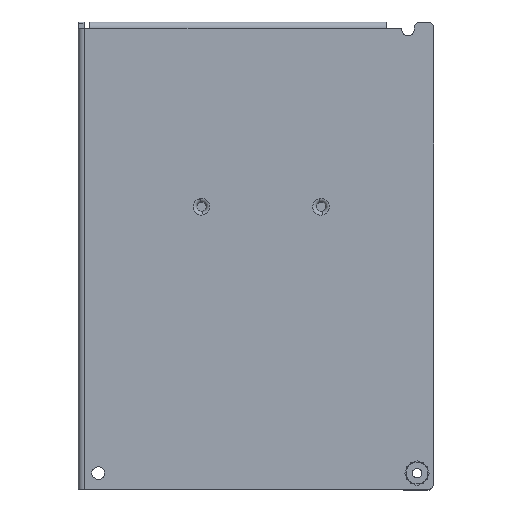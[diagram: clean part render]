
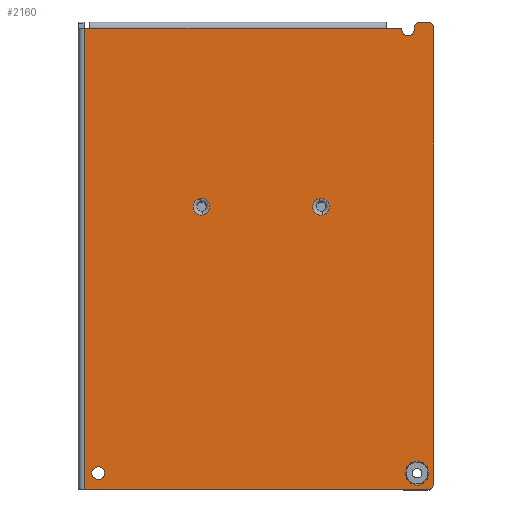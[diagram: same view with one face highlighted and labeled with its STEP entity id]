
A CAD part, front view. The second image highlights one B-rep face of the part: STEP entity #2160.
In plain terms, the highlighted planar face has unit normal (0, -1, 0).
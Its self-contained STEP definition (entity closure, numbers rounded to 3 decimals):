
#10=CARTESIAN_POINT('',(0.,0.,0.));
#20=DIRECTION('',(0.,1.,0.));
#30=DIRECTION('',(1.,0.,0.));
#40=AXIS2_PLACEMENT_3D('',#10,#20,#30);
#50=PLANE('',#40);
#60=CARTESIAN_POINT('',(-7.,0.,-2.));
#70=DIRECTION('',(0.,-1.,-0.));
#80=DIRECTION('',(-1.,0.,0.));
#90=AXIS2_PLACEMENT_3D('',#60,#70,#80);
#100=CIRCLE('',#90,1.75);
#110=CARTESIAN_POINT('',(-8.75,0.,-2.));
#120=VERTEX_POINT('',#110);
#130=CARTESIAN_POINT('',(-5.25,0.,-2.));
#140=VERTEX_POINT('',#130);
#150=EDGE_CURVE('',#120,#140,#100,.T.);
#160=ORIENTED_EDGE('',*,*,#150,.F.);
#170=CARTESIAN_POINT('',(-5.25,0.,-2.));
#180=DIRECTION('',(0.,0.,1.));
#190=VECTOR('',#180,1.);
#200=LINE('',#170,#190);
#210=CARTESIAN_POINT('',(-5.25,0.,-1.6));
#220=VERTEX_POINT('',#210);
#230=EDGE_CURVE('',#140,#220,#200,.T.);
#240=ORIENTED_EDGE('',*,*,#230,.F.);
#250=CARTESIAN_POINT('',(-3.65,0.,-1.6));
#260=DIRECTION('',(0.,1.,0.));
#270=DIRECTION('',(-1.,0.,0.));
#280=AXIS2_PLACEMENT_3D('',#250,#260,#270);
#290=CIRCLE('',#280,1.6);
#300=CARTESIAN_POINT('',(-3.65,0.,0.));
#310=VERTEX_POINT('',#300);
#320=EDGE_CURVE('',#220,#310,#290,.T.);
#330=ORIENTED_EDGE('',*,*,#320,.F.);
#340=CARTESIAN_POINT('',(-1.6,0.,0.));
#350=DIRECTION('',(-1.,0.,0.));
#360=VECTOR('',#350,1.);
#370=LINE('',#340,#360);
#380=CARTESIAN_POINT('',(-1.6,0.,0.));
#390=VERTEX_POINT('',#380);
#400=EDGE_CURVE('',#390,#310,#370,.T.);
#410=ORIENTED_EDGE('',*,*,#400,.T.);
#420=CARTESIAN_POINT('',(-1.6,0.,-1.6));
#430=DIRECTION('',(0.,1.,0.));
#440=DIRECTION('',(0.,0.,1.));
#450=AXIS2_PLACEMENT_3D('',#420,#430,#440);
#460=CIRCLE('',#450,1.6);
#470=CARTESIAN_POINT('',(0.,0.,-1.6));
#480=VERTEX_POINT('',#470);
#490=EDGE_CURVE('',#390,#480,#460,.T.);
#500=ORIENTED_EDGE('',*,*,#490,.F.);
#510=CARTESIAN_POINT('',(0.,0.,-127.4));
#520=DIRECTION('',(0.,0.,1.));
#530=VECTOR('',#520,1.);
#540=LINE('',#510,#530);
#550=CARTESIAN_POINT('',(0.,0.,-127.4));
#560=VERTEX_POINT('',#550);
#570=EDGE_CURVE('',#560,#480,#540,.T.);
#580=ORIENTED_EDGE('',*,*,#570,.T.);
#590=CARTESIAN_POINT('',(-1.6,0.,-127.4));
#600=DIRECTION('',(-0.,1.,0.));
#610=DIRECTION('',(1.,0.,0.));
#620=AXIS2_PLACEMENT_3D('',#590,#600,#610);
#630=CIRCLE('',#620,1.6);
#640=CARTESIAN_POINT('',(-1.6,0.,-129.));
#650=VERTEX_POINT('',#640);
#660=EDGE_CURVE('',#560,#650,#630,.T.);
#670=ORIENTED_EDGE('',*,*,#660,.F.);
#680=CARTESIAN_POINT('',(-96.3,0.,-129.));
#690=DIRECTION('',(1.,0.,0.));
#700=VECTOR('',#690,1.);
#710=LINE('',#680,#700);
#720=CARTESIAN_POINT('',(-96.3,0.,-129.));
#730=VERTEX_POINT('',#720);
#740=EDGE_CURVE('',#730,#650,#710,.T.);
#750=ORIENTED_EDGE('',*,*,#740,.T.);
#760=CARTESIAN_POINT('',(-96.3,0.,-1.7));
#770=DIRECTION('',(0.,0.,-1.));
#780=VECTOR('',#770,1.);
#790=LINE('',#760,#780);
#800=CARTESIAN_POINT('',(-96.3,0.,-1.7));
#810=VERTEX_POINT('',#800);
#820=EDGE_CURVE('',#810,#730,#790,.T.);
#830=ORIENTED_EDGE('',*,*,#820,.T.);
#840=CARTESIAN_POINT('',(-94.8,0.,-1.7));
#850=DIRECTION('',(-1.,0.,0.));
#860=VECTOR('',#850,1.);
#870=LINE('',#840,#860);
#880=CARTESIAN_POINT('',(-94.8,0.,-1.7));
#890=VERTEX_POINT('',#880);
#900=EDGE_CURVE('',#890,#810,#870,.T.);
#910=ORIENTED_EDGE('',*,*,#900,.T.);
#920=CARTESIAN_POINT('',(-13.,0.,-1.7));
#930=DIRECTION('',(-1.,0.,0.));
#940=VECTOR('',#930,1.);
#950=LINE('',#920,#940);
#960=CARTESIAN_POINT('',(-13.,0.,-1.7));
#970=VERTEX_POINT('',#960);
#980=EDGE_CURVE('',#970,#890,#950,.T.);
#990=ORIENTED_EDGE('',*,*,#980,.T.);
#1000=CARTESIAN_POINT('',(-9.05,0.,-1.7));
#1010=DIRECTION('',(-1.,0.,0.));
#1020=VECTOR('',#1010,1.);
#1030=LINE('',#1000,#1020);
#1040=CARTESIAN_POINT('',(-9.05,0.,-1.7));
#1050=VERTEX_POINT('',#1040);
#1060=EDGE_CURVE('',#1050,#970,#1030,.T.);
#1070=ORIENTED_EDGE('',*,*,#1060,.T.);
#1080=CARTESIAN_POINT('',(-9.05,0.,-2.));
#1090=DIRECTION('',(0.,1.,0.));
#1100=DIRECTION('',(0.,0.,1.));
#1110=AXIS2_PLACEMENT_3D('',#1080,#1090,#1100);
#1120=CIRCLE('',#1110,0.3);
#1130=EDGE_CURVE('',#1050,#120,#1120,.T.);
#1140=ORIENTED_EDGE('',*,*,#1130,.F.);
#1150=EDGE_LOOP('',(#1140,#1070,#990,#910,#830,#750,#670,#580,#500,#410,
#330,#240,#160));
#1160=FACE_OUTER_BOUND('',#1150,.T.);
#1170=CARTESIAN_POINT('',(-92.5,0.,-124.5));
#1180=DIRECTION('',(0.,-1.,0.));
#1190=DIRECTION('',(0.,0.,1.));
#1200=AXIS2_PLACEMENT_3D('',#1170,#1180,#1190);
#1210=CIRCLE('',#1200,1.75);
#1220=CARTESIAN_POINT('',(-92.5,0.,-126.25));
#1230=VERTEX_POINT('',#1220);
#1240=CARTESIAN_POINT('',(-92.5,0.,-122.75));
#1250=VERTEX_POINT('',#1240);
#1260=EDGE_CURVE('',#1230,#1250,#1210,.T.);
#1270=ORIENTED_EDGE('',*,*,#1260,.F.);
#1280=EDGE_CURVE('',#1250,#1230,#1210,.T.);
#1290=ORIENTED_EDGE('',*,*,#1280,.F.);
#1300=EDGE_LOOP('',(#1290,#1270));
#1310=FACE_BOUND('',#1300,.T.);
#1320=CARTESIAN_POINT('',(-31.,0.,-51.));
#1330=DIRECTION('',(0.,-1.,0.));
#1340=DIRECTION('',(0.,0.,1.));
#1350=AXIS2_PLACEMENT_3D('',#1320,#1330,#1340);
#1360=CIRCLE('',#1350,2.3);
#1370=CARTESIAN_POINT('',(-30.537,0.,-53.253));
#1380=VERTEX_POINT('',#1370);
#1390=CARTESIAN_POINT('',(-31.463,0.,-48.747));
#1400=VERTEX_POINT('',#1390);
#1410=EDGE_CURVE('',#1380,#1400,#1360,.T.);
#1420=ORIENTED_EDGE('',*,*,#1410,.F.);
#1430=EDGE_CURVE('',#1400,#1380,#1360,.T.);
#1440=ORIENTED_EDGE('',*,*,#1430,.F.);
#1450=EDGE_LOOP('',(#1440,#1420));
#1460=FACE_BOUND('',#1450,.T.);
#1470=CARTESIAN_POINT('',(-64.,0.,-51.));
#1480=DIRECTION('',(0.,-1.,0.));
#1490=DIRECTION('',(0.,0.,1.));
#1500=AXIS2_PLACEMENT_3D('',#1470,#1480,#1490);
#1510=CIRCLE('',#1500,2.3);
#1520=CARTESIAN_POINT('',(-64.,0.,-48.7));
#1530=VERTEX_POINT('',#1520);
#1540=CARTESIAN_POINT('',(-64.463,0.,-48.747));
#1550=VERTEX_POINT('',#1540);
#1560=EDGE_CURVE('',#1530,#1550,#1510,.T.);
#1570=ORIENTED_EDGE('',*,*,#1560,.F.);
#1580=CARTESIAN_POINT('',(-63.537,0.,-53.253));
#1590=VERTEX_POINT('',#1580);
#1600=EDGE_CURVE('',#1550,#1590,#1510,.T.);
#1610=ORIENTED_EDGE('',*,*,#1600,.F.);
#1620=EDGE_CURVE('',#1590,#1530,#1510,.T.);
#1630=ORIENTED_EDGE('',*,*,#1620,.F.);
#1640=EDGE_LOOP('',(#1630,#1610,#1570));
#1650=FACE_BOUND('',#1640,.T.);
#1660=CARTESIAN_POINT('',(-7.964,0.,-124.5));
#1670=DIRECTION('',(0.5,0.,-0.866));
#1680=VECTOR('',#1670,1.);
#1690=LINE('',#1660,#1680);
#1700=CARTESIAN_POINT('',(-7.964,0.,-124.5));
#1710=VERTEX_POINT('',#1700);
#1720=CARTESIAN_POINT('',(-6.232,0.,-127.5));
#1730=VERTEX_POINT('',#1720);
#1740=EDGE_CURVE('',#1710,#1730,#1690,.T.);
#1750=ORIENTED_EDGE('',*,*,#1740,.F.);
#1760=CARTESIAN_POINT('',(-2.768,0.,-127.5));
#1770=DIRECTION('',(-1.,0.,0.));
#1780=VECTOR('',#1770,1.);
#1790=LINE('',#1760,#1780);
#1800=CARTESIAN_POINT('',(-2.768,0.,-127.5));
#1810=VERTEX_POINT('',#1800);
#1820=EDGE_CURVE('',#1810,#1730,#1790,.T.);
#1830=ORIENTED_EDGE('',*,*,#1820,.T.);
#1840=CARTESIAN_POINT('',(-2.768,0.,-127.5));
#1850=DIRECTION('',(0.5,0.,0.866));
#1860=VECTOR('',#1850,1.);
#1870=LINE('',#1840,#1860);
#1880=CARTESIAN_POINT('',(-1.036,0.,-124.5));
#1890=VERTEX_POINT('',#1880);
#1900=EDGE_CURVE('',#1810,#1890,#1870,.T.);
#1910=ORIENTED_EDGE('',*,*,#1900,.F.);
#1920=CARTESIAN_POINT('',(-1.036,0.,-124.5));
#1930=DIRECTION('',(-0.5,0.,0.866));
#1940=VECTOR('',#1930,1.);
#1950=LINE('',#1920,#1940);
#1960=CARTESIAN_POINT('',(-2.768,0.,-121.5));
#1970=VERTEX_POINT('',#1960);
#1980=EDGE_CURVE('',#1890,#1970,#1950,.T.);
#1990=ORIENTED_EDGE('',*,*,#1980,.F.);
#2000=CARTESIAN_POINT('',(-6.232,0.,-121.5));
#2010=DIRECTION('',(1.,0.,0.));
#2020=VECTOR('',#2010,1.);
#2030=LINE('',#2000,#2020);
#2040=CARTESIAN_POINT('',(-6.232,0.,-121.5));
#2050=VERTEX_POINT('',#2040);
#2060=EDGE_CURVE('',#2050,#1970,#2030,.T.);
#2070=ORIENTED_EDGE('',*,*,#2060,.T.);
#2080=CARTESIAN_POINT('',(-6.232,0.,-121.5));
#2090=DIRECTION('',(-0.5,0.,-0.866));
#2100=VECTOR('',#2090,1.);
#2110=LINE('',#2080,#2100);
#2120=EDGE_CURVE('',#2050,#1710,#2110,.T.);
#2130=ORIENTED_EDGE('',*,*,#2120,.F.);
#2140=EDGE_LOOP('',(#2130,#2070,#1990,#1910,#1830,#1750));
#2150=FACE_BOUND('',#2140,.T.);
#2160=ADVANCED_FACE('',(#1160,#1310,#1460,#1650,#2150),#50,.F.);
